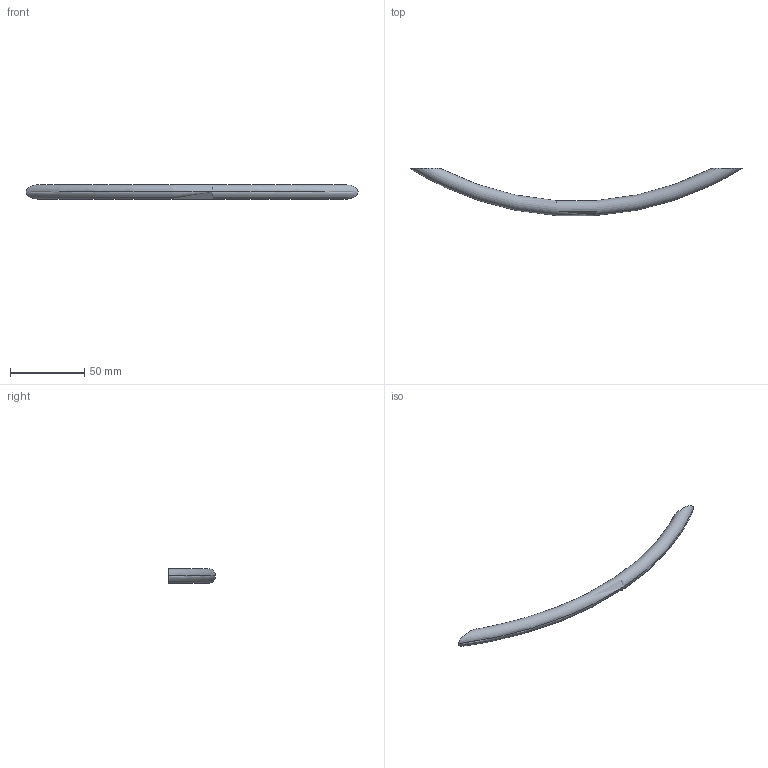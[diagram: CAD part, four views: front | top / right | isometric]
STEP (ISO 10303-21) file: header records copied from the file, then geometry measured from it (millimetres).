
FILE_DESCRIPTION( ( '' ), '1' );
FILE_NAME( 'D:/HETTCAD 2014/DATA TRANSFER/AUTOCAD EXPORT/SENT/Sheet correction/prodecor nicia/9070985/9070723.stp', '2014-08-27T08:55:59', ( '' ), ( '' ), ' ', ' ', ' ' );
FILE_SCHEMA( ( 'CONFIG_CONTROL_DESIGN' ) );
Length unit declared in the file: millimetre
Products named in the file (1): 1
Bounding box: 223 x 31.59 x 10 mm (x, y, z)
Volume: 16564.9 mm3; surface area: 7149.7 mm2
Topology: 1 solids, 1 shells, 10 faces, 18 edges, 12 vertices
Faces by surface type: cylinder 4, plane 4, torus 2
Entity records: 508 total; most frequent: CARTESIAN_POINT 261, DIRECTION 46, ORIENTED_EDGE 36, AXIS2_PLACEMENT_3D 21, EDGE_CURVE 18, EDGE_LOOP 12, VERTEX_POINT 12, ADVANCED_FACE 10
